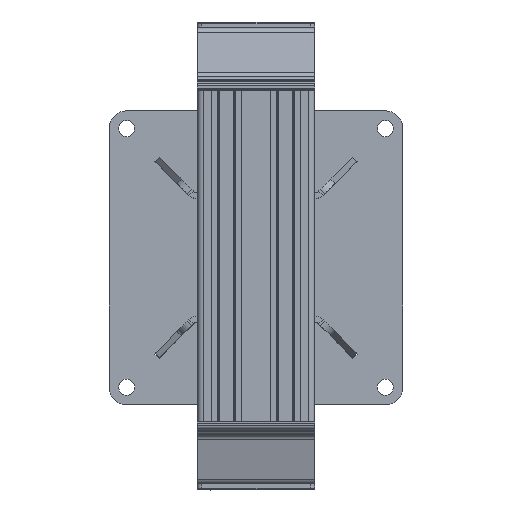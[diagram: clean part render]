
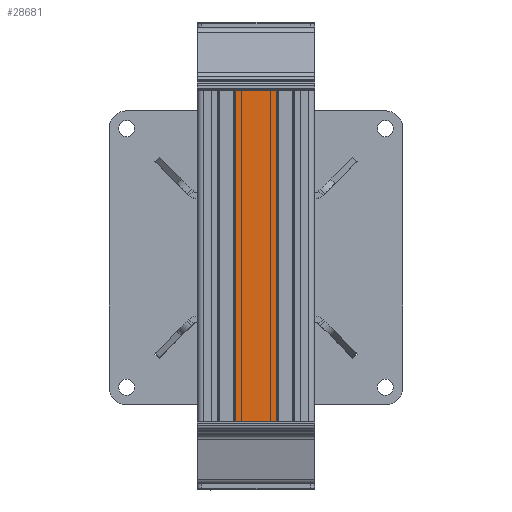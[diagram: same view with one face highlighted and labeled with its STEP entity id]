
A CAD part, top view. The second image highlights one B-rep face of the part: STEP entity #28681.
In plain terms, the highlighted planar face has unit normal (0, 0, 1) as drawn and (0, 1, 0) by its records, which use the part's own axes.
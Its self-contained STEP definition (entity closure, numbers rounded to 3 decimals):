
#3019=FACE_OUTER_BOUND('',#4669,.T.);
#4669=EDGE_LOOP('',(#20414,#20415,#20416,#20417));
#6830=LINE('',#42741,#9579);
#6831=LINE('',#42745,#9580);
#6832=LINE('',#42747,#9581);
#6833=LINE('',#42748,#9582);
#9579=VECTOR('',#34642,10.);
#9580=VECTOR('',#34647,10.);
#9581=VECTOR('',#34648,10.);
#9582=VECTOR('',#34649,10.);
#12221=VERTEX_POINT('',#42738);
#12222=VERTEX_POINT('',#42740);
#12223=VERTEX_POINT('',#42744);
#12224=VERTEX_POINT('',#42746);
#15319=EDGE_CURVE('',#12222,#12221,#6830,.T.);
#15321=EDGE_CURVE('',#12221,#12223,#6831,.T.);
#15322=EDGE_CURVE('',#12224,#12223,#6832,.T.);
#15323=EDGE_CURVE('',#12222,#12224,#6833,.T.);
#20414=ORIENTED_EDGE('',*,*,#15321,.T.);
#20415=ORIENTED_EDGE('',*,*,#15322,.F.);
#20416=ORIENTED_EDGE('',*,*,#15323,.F.);
#20417=ORIENTED_EDGE('',*,*,#15319,.T.);
#27736=PLANE('',#30763);
#28681=ADVANCED_FACE('',(#3019),#27736,.T.);
#30763=AXIS2_PLACEMENT_3D('',#42743,#34645,#34646);
#34642=DIRECTION('',(0.,0.,1.));
#34645=DIRECTION('center_axis',(0.,1.,0.));
#34646=DIRECTION('ref_axis',(0.,0.,1.));
#34647=DIRECTION('',(1.,0.,0.));
#34648=DIRECTION('',(0.,0.,1.));
#34649=DIRECTION('',(1.,0.,0.));
#42738=CARTESIAN_POINT('',(-14.,20.,110.));
#42740=CARTESIAN_POINT('',(-14.,20.,-200.));
#42741=CARTESIAN_POINT('',(-14.,20.,-200.));
#42743=CARTESIAN_POINT('Origin',(0.,20.,-200.));
#42744=CARTESIAN_POINT('',(14.,20.,110.));
#42745=CARTESIAN_POINT('',(0.,20.,110.));
#42746=CARTESIAN_POINT('',(14.,20.,-200.));
#42747=CARTESIAN_POINT('',(14.,20.,-200.));
#42748=CARTESIAN_POINT('',(-14.,20.,-200.));
